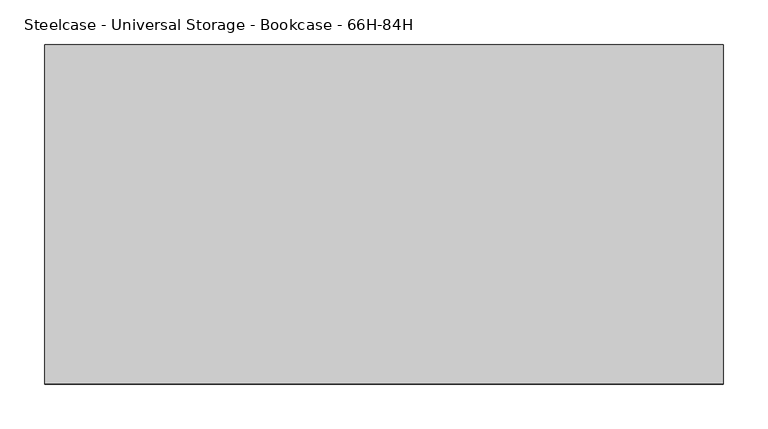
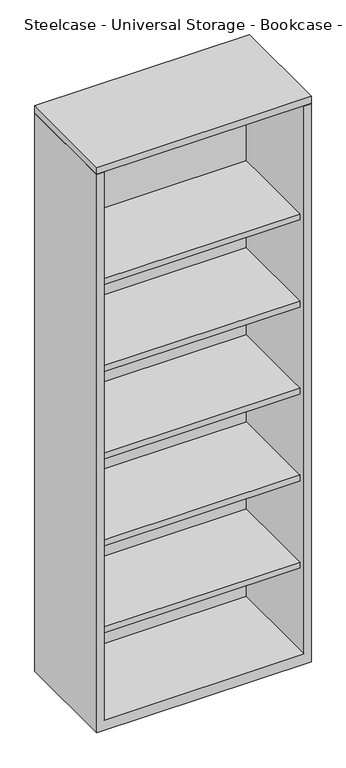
"""IFC4 building model written with IfcOpenShell, lengths in millimetres: furniture geometry, Steelcase - Universal Storage - Bookcase - 66H-84H : 83 1/2H x 30W."""

import ifcopenshell
import ifcopenshell.guid

model = None  # the IFC model being written
_history = None  # IfcOwnerHistory: only IFC2X3 demands one
_inside = {}  # id of a spatial element -> (the spatial element, [elements in it])
_under = {}  # id of a project, library or spatial element -> (it, [spatial elements below it])
_declared = {}  # id of a project -> (the project, [libraries it declares])
_typed = {}  # id of a type object -> (the type object, [elements of that type])
_made_of = {}  # id of a material, layer set ... -> (it, [elements and type objects made of it])


def new_model(schema):
    """Start an empty IFC model of exactly this schema.

    Asked for "IFC4X3", IfcOpenShell would pick the latest addendum, in which some entities
    have other attributes; the version numbers below select the first issue.
    IFC2X3 requires an IfcOwnerHistory on every rooted entity: one is made here for all.
    """
    global model, _history
    if schema == "IFC4X3":
        model = ifcopenshell.file(schema_version=(4, 3, 0, 0))
    else:
        model = ifcopenshell.file(schema=schema)
    _inside.clear()
    _under.clear()
    _declared.clear()
    _typed.clear()
    _made_of.clear()
    _history = None
    if model.schema == "IFC2X3":
        org = make("IfcOrganization", Name="unknown")
        user = make(
            "IfcPersonAndOrganization",
            ThePerson=make("IfcPerson", FamilyName="unknown"),
            TheOrganization=org,
        )
        app = make(
            "IfcApplication",
            ApplicationDeveloper=org,
            Version="unknown",
            ApplicationFullName="unknown",
            ApplicationIdentifier="unknown",
        )
        _history = make(
            "IfcOwnerHistory",
            OwningUser=user,
            OwningApplication=app,
            ChangeAction="ADDED",
            CreationDate=0,
        )
    return model


def make(cls, **values):
    """One entity of the class cls with the attributes given. An attribute that is None is left unset."""
    return model.create_entity(
        cls, **{name: value for name, value in values.items() if value is not None}
    )


def rooted(cls, **values):
    """An entity with a GlobalId (a new one), such as an element, a storey or a relation."""
    return make(cls, GlobalId=ifcopenshell.guid.new(), OwnerHistory=_history, **values)


def si_unit(unit_type, name, prefix=None):
    """IfcSIUnit, for example si_unit("LENGTHUNIT", "METRE", prefix="MILLI")."""
    return make("IfcSIUnit", UnitType=unit_type, Prefix=prefix, Name=name)


def assignment(units):
    """IfcUnitAssignment: the units of a project."""
    return None if units is None else make("IfcUnitAssignment", Units=units)


def point(xyz):
    """IfcCartesianPoint."""
    return None if xyz is None else make("IfcCartesianPoint", Coordinates=xyz)


def direction(xyz):
    """IfcDirection."""
    return None if xyz is None else make("IfcDirection", DirectionRatios=xyz)


def frame(location, z_axis=None, x_axis=None):
    """IfcAxis2Placement3D, a coordinate frame: its origin and axes. An axis left out is left unset."""
    return make(
        "IfcAxis2Placement3D",
        Location=point(location),
        Axis=direction(z_axis),
        RefDirection=direction(x_axis),
    )


def origin():
    """The frame at (0, 0, 0) with its axes left unset."""
    return frame((0.0, 0.0, 0.0))


def place(relative_to, where):
    """IfcLocalPlacement: puts the frame where relative to a parent placement (None: the world)."""
    return make(
        "IfcLocalPlacement", PlacementRelTo=relative_to, RelativePlacement=where
    )


def context(
    kind, dimensions, precision=None, world=None, true_north=None, identifier=None
):
    """IfcGeometricRepresentationContext, for example the 3D "Model" context."""
    return make(
        "IfcGeometricRepresentationContext",
        ContextIdentifier=identifier,
        ContextType=kind,
        CoordinateSpaceDimension=dimensions,
        Precision=precision,
        WorldCoordinateSystem=world,
        TrueNorth=true_north,
    )


def project(units=None, contexts=None):
    """IfcProject with its units and contexts."""
    return rooted(
        "IfcProject",
        Name="project",
        RepresentationContexts=contexts,
        UnitsInContext=assignment(units),
    )


def spatial(cls, under=None, at=None, **own):
    """A site, building, storey or space (cls), placed at a placement, below another one or the project."""
    s = rooted(cls, ObjectPlacement=at, **own)
    if under is not None:
        _under.setdefault(under.id(), (under, []))[1].append(s)
    return s


def polyline(points):
    """IfcPolyline through the points."""
    return make("IfcPolyline", Points=[point(p) for p in points])


def outline(outer, holes=None, kind="AREA"):
    """IfcArbitraryClosedProfileDef: a profile drawn as a closed curve; with holes, ...WithVoids."""
    if holes is None:
        return make("IfcArbitraryClosedProfileDef", ProfileType=kind, OuterCurve=outer)
    return make(
        "IfcArbitraryProfileDefWithVoids",
        ProfileType=kind,
        OuterCurve=outer,
        InnerCurves=holes,
    )


def extrude(swept, where, along, depth):
    """IfcExtrudedAreaSolid: the profile swept, set in the frame where, extruded along a direction by depth."""
    return make(
        "IfcExtrudedAreaSolid",
        SweptArea=swept,
        Position=where,
        ExtrudedDirection=direction(along),
        Depth=depth,
    )


def faces_of(points, faces, orient=None, outer=None):
    """IfcFace entities. A face is a list of loops; a loop is a list of indices into points, from 0.

    orient and outer hold one flag for each loop. By default every Orientation is true, the
    first loop of a face is its IfcFaceOuterBound and the others are IfcFaceBound.
    """
    made = []
    for i, loops in enumerate(faces):
        bounds = []
        for j, loop in enumerate(loops):
            is_outer = j == 0 if outer is None else outer[i][j]
            bounds.append(
                make(
                    "IfcFaceOuterBound" if is_outer else "IfcFaceBound",
                    Bound=make("IfcPolyLoop", Polygon=[points[k] for k in loop]),
                    Orientation=True if orient is None else orient[i][j],
                )
            )
        made.append(make("IfcFace", Bounds=bounds))
    return made


def faceted_brep(points, faces, orient=None, outer=None, voids=None):
    """IfcFacetedBrep: a solid bounded by flat faces; with voids (closed shells), ...WithVoids."""
    shared = [point(p) for p in points]
    hull = make("IfcClosedShell", CfsFaces=faces_of(shared, faces, orient, outer))
    if voids is None:
        return make("IfcFacetedBrep", Outer=hull)
    return make(
        "IfcFacetedBrepWithVoids",
        Outer=hull,
        Voids=[
            make(cls, CfsFaces=faces_of(shared, fs, o, b)) for cls, fs, o, b in voids
        ],
    )


def shape(context_of_items, identifier, shape_type, items):
    """IfcShapeRepresentation: the items that make up one representation, for example the "Body"."""
    return make(
        "IfcShapeRepresentation",
        ContextOfItems=context_of_items,
        RepresentationIdentifier=identifier,
        RepresentationType=shape_type,
        Items=items,
    )


def source(mapping_origin, context_of_items, identifier, shape_type, items):
    """IfcRepresentationMap: a shape defined once, which mapped items show again and again."""
    return make(
        "IfcRepresentationMap",
        MappingOrigin=mapping_origin,
        MappedRepresentation=shape(context_of_items, identifier, shape_type, items),
    )


def transform(
    local_origin,
    x_axis=None,
    y_axis=None,
    z_axis=None,
    scale=None,
    scale2=None,
    scale3=None,
    uniform=True,
):
    """IfcCartesianTransformationOperator3D, or its non-uniform kind. x_axis, y_axis, z_axis: its Axis1, 2, 3."""
    if uniform:
        return make(
            "IfcCartesianTransformationOperator3D",
            Axis1=direction(x_axis),
            Axis2=direction(y_axis),
            LocalOrigin=point(local_origin),
            Scale=scale,
            Axis3=direction(z_axis),
        )
    return make(
        "IfcCartesianTransformationOperator3DnonUniform",
        Axis1=direction(x_axis),
        Axis2=direction(y_axis),
        LocalOrigin=point(local_origin),
        Scale=scale,
        Axis3=direction(z_axis),
        Scale2=scale2,
        Scale3=scale3,
    )


def mapped(mapping_source, mapping_target):
    """IfcMappedItem: shows the shape of a source again, moved by a transform."""
    return make(
        "IfcMappedItem", MappingSource=mapping_source, MappingTarget=mapping_target
    )


def made_of(thing, what):
    """Note that an element or type object is made of a material, layer set ...; save() writes the relation."""
    if what is not None:
        _made_of.setdefault(what.id(), (what, []))[1].append(thing)
    return thing


def element(
    cls,
    number,
    at=None,
    inside=None,
    cuts=None,
    type_object=None,
    material=None,
    context=None,
    identifier="Body",
    shape_type=None,
    held_by="IfcProductDefinitionShape",
    body=None,
    shapes=None,
    **own,
):
    """One element of the class cls, such as IfcWall. Its Tag is "e" and its number.

    at: its placement. inside: the storey or other place that contains it. cuts: it is an
    opening in that element (IfcRelVoidsElement). A single representation is given by context,
    identifier, shape_type and body (its items); several are given by shapes. held_by: the class
    of the entity that holds the representations. save() writes the other relations.
    """
    e = rooted(cls, Tag="e%d" % number, ObjectPlacement=at, **own)
    if body is not None:
        shapes = [shape(context, identifier, shape_type, body)]
    if shapes is not None:
        e.Representation = make(held_by, Representations=shapes)
    if inside is not None:
        _inside.setdefault(inside.id(), (inside, []))[1].append(e)
    if cuts is not None:
        rooted(
            "IfcRelVoidsElement", RelatingBuildingElement=cuts, RelatedOpeningElement=e
        )
    if type_object is not None:
        _typed.setdefault(type_object.id(), (type_object, []))[1].append(e)
    return made_of(e, material)


def aggregate(whole, parts):
    """IfcRelAggregates: a whole, such as a stair, and the parts it consists of."""
    return rooted("IfcRelAggregates", RelatingObject=whole, RelatedObjects=parts)


def save(model, path):
    """Write the relations noted so far, then the file.

    IfcRelAggregates (storeys below a building ...), IfcRelContainedInSpatialStructure (elements
    in a storey), IfcRelDefinesByType, IfcRelAssociatesMaterial and IfcRelDeclares: one each for
    every whole, place, type object, material and project.
    """
    for whole, parts in _under.values():
        aggregate(whole, parts)
    for where, things in _inside.values():
        rooted(
            "IfcRelContainedInSpatialStructure",
            RelatedElements=things,
            RelatingStructure=where,
        )
    for kind, things in _typed.values():
        rooted("IfcRelDefinesByType", RelatedObjects=things, RelatingType=kind)
    for what, things in _made_of.values():
        rooted("IfcRelAssociatesMaterial", RelatedObjects=things, RelatingMaterial=what)
    for by, libraries in _declared.values():
        rooted("IfcRelDeclares", RelatingContext=by, RelatedDefinitions=libraries)
    model.write(path)


def steelcase_universal_storage_bookcase_66h_84h_0ede4a2d(model_context):
    return source(origin(), model_context, "Body", "SolidModel", [
        extrude(outline(polyline([(762.0, -98.552), (762.0, -479.552), (0.0, -479.552), (0.0, -98.552), (762.0, -98.552)])), frame((0.0, 0.0, 2097.0239516), z_axis=(0.0, 0.0, 1.0), x_axis=(1.0, 0.0, 0.0)), (0.0, 0.0, 1.0), 25.4000484),
        extrude(outline(polyline([(736.6000242, -123.9520008), (736.6000242, -454.0250121), (25.4000008, -454.0250121), (25.4000008, -123.9520008), (736.6000242, -123.9520008)])), frame((0.0, 0.0, 344.424), z_axis=(0.0, 0.0, 1.0), x_axis=(1.0, 0.0, 0.0)), (0.0, 0.0, 1.0), 22.2249516),
        extrude(outline(polyline([(736.6000242, -123.9520008), (736.6000242, -454.0250121), (25.4000008, -454.0250121), (25.4000008, -123.9520008), (736.6000242, -123.9520008)])), frame((0.0, 0.0, 671.4489516), z_axis=(0.0, 0.0, 1.0), x_axis=(1.0, 0.0, 0.0)), (0.0, 0.0, 1.0), 22.2249516),
        extrude(outline(polyline([(736.6000242, -123.9520008), (736.6000242, -454.0250121), (25.4000008, -454.0250121), (25.4000008, -123.9520008), (736.6000242, -123.9520008)])), frame((0.0, 0.0, 998.4739031), z_axis=(0.0, 0.0, 1.0), x_axis=(1.0, 0.0, 0.0)), (0.0, 0.0, 1.0), 22.2249516),
        extrude(outline(polyline([(736.6000242, -123.9520008), (736.6000242, -454.0250121), (25.4000008, -454.0250121), (25.4000008, -123.9520008), (736.6000242, -123.9520008)])), frame((0.0, 0.0, 1325.4988547), z_axis=(0.0, 0.0, 1.0), x_axis=(1.0, 0.0, 0.0)), (0.0, 0.0, 1.0), 22.2249516),
        extrude(outline(polyline([(736.6000242, -123.9520008), (736.6000242, -454.0250121), (25.4000008, -454.0250121), (25.4000008, -123.9520008), (736.6000242, -123.9520008)])), frame((0.0, 0.0, 1652.5238062), z_axis=(0.0, 0.0, 1.0), x_axis=(1.0, 0.0, 0.0)), (0.0, 0.0, 1.0), 22.2249516),
        faceted_brep([(25.4000008, -479.552, 38.1), (736.6000242, -479.552, 38.1), (736.6000242, -123.9520008, 38.1), (25.4000008, -123.9520008, 38.1), (762.0, -98.552, 0.0), (762.0, -479.552, 0.0), (0.0, -479.552, 0.0), (0.0, -98.552, 0.0), (0.0, -98.552, 2095.5), (762.0, -98.552, 2095.5), (0.0, -479.552, 2095.5), (762.0, -479.552, 2095.5), (736.6000242, -479.552, 2095.5), (25.4000008, -479.552, 2095.5), (736.6000242, -123.9520008, 2095.5), (25.4000008, -123.9520008, 2095.5)], [[[0, 1, 2, 3]], [[4, 5, 6, 7]], [[4, 7, 8, 9]], [[8, 7, 6, 10]], [[10, 6, 5, 11, 12, 1, 0, 13]], [[11, 5, 4, 9]], [[14, 12, 11, 9, 8, 10, 13, 15]], [[12, 14, 2, 1]], [[15, 13, 0, 3]], [[14, 15, 3, 2]]]),
    ])


if __name__ == "__main__":
    model = new_model("IFC4")
    model_context = context("Model", 3, world=origin())
    ifc_project = project(units=[si_unit("LENGTHUNIT", "METRE", prefix="MILLI")], contexts=[model_context])
    site = spatial("IfcSite", under=ifc_project)
    building = spatial("IfcBuilding", under=site)
    placement = place(None, origin())
    steelcase_universal_storage_bookcase_66h_84h_shape = steelcase_universal_storage_bookcase_66h_84h_0ede4a2d(model_context)
    element("IfcFurniture", 1, ObjectType="Steelcase - Universal Storage - Bookcase - 66H-84H : 83 1/2H x 30W", at=placement, inside=building, context=model_context, shape_type="MappedRepresentation", body=[
        mapped(steelcase_universal_storage_bookcase_66h_84h_shape, transform((0.0, 0.0, 0.0), x_axis=(1.0, 0.0, 0.0), y_axis=(0.0, 1.0, 0.0), z_axis=(0.0, 0.0, 1.0))),
    ])
    save(model, "model.ifc")
